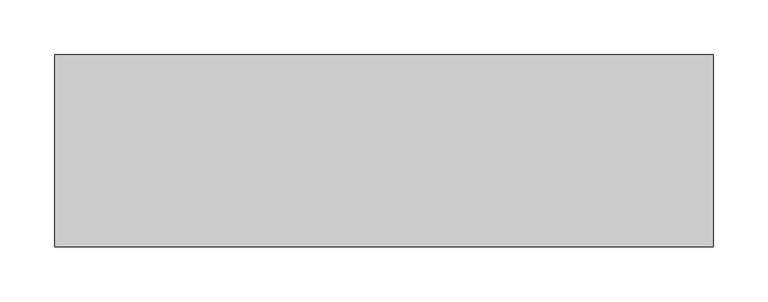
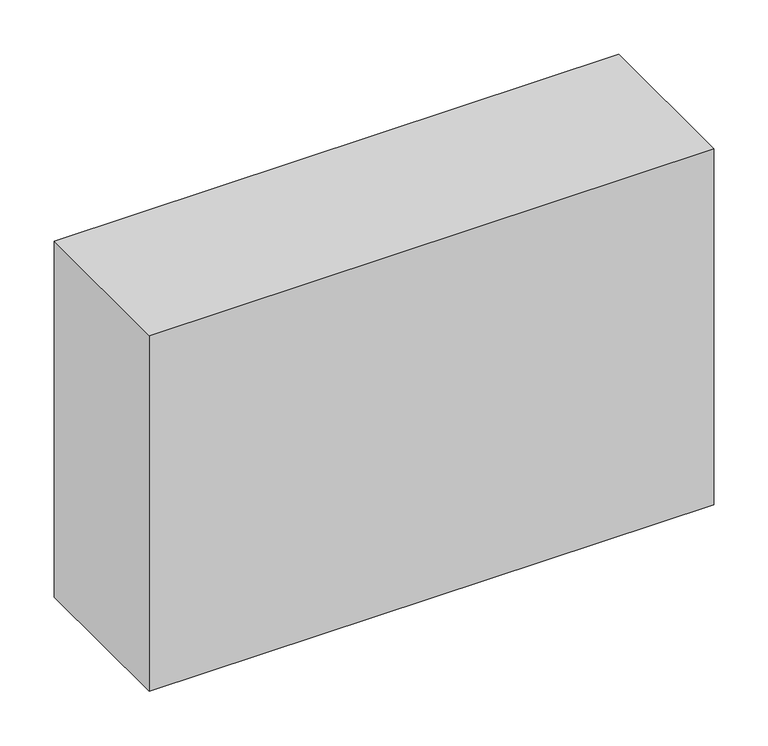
"""IFC4 building model written with IfcOpenShell, lengths in millimetres: proxy geometry, Módulo de Vedação de Concreto Celular - Celucon : MVCC 17,5x40x60cm (L x A x C)."""

from ifc_helpers import new_model, si_unit, origin, origin_with_axes, place, context, project, spatial, polyline, outline, extrude, source, transform, mapped, element, save


def generic_models_be295d03(model_context):
    return source(origin(), model_context, "Body", "SweptSolid", [
        extrude(outline(polyline([(300.0, 87.5), (300.0, -87.5), (-300.0, -87.5), (-300.0, 87.5), (300.0, 87.5)])), origin_with_axes(), (0.0, 0.0, 1.0), 400.0),
    ])


if __name__ == "__main__":
    model = new_model("IFC4")
    model_context = context("Model", 3, world=origin())
    ifc_project = project(units=[si_unit("LENGTHUNIT", "METRE", prefix="MILLI")], contexts=[model_context])
    site = spatial("IfcSite", under=ifc_project)
    building = spatial("IfcBuilding", under=site)
    placement = place(None, origin())
    generic_models_shape = generic_models_be295d03(model_context)
    element("IfcBuildingElementProxy", 1, Name="Módulo de Vedação de Concreto Celular - Celucon : MVCC 17,5x40x60cm (L x A x C)", ObjectType="Módulo de Vedação de Concreto Celular - Celucon : MVCC 17,5x40x60cm (L x A x C)", at=placement, inside=building, context=model_context, shape_type="MappedRepresentation", body=[
        mapped(generic_models_shape, transform((0.0, 0.0, 0.0), x_axis=(1.0, 0.0, 0.0), y_axis=(0.0, 1.0, 0.0), z_axis=(0.0, 0.0, 1.0))),
    ])
    save(model, "model.ifc")
